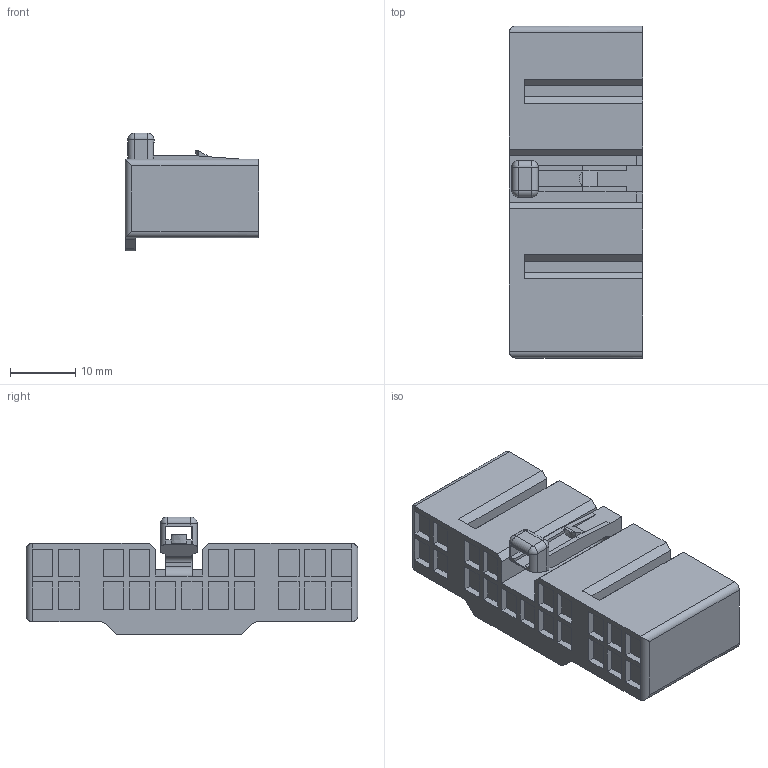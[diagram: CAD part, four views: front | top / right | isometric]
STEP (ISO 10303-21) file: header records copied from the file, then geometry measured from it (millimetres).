
FILE_DESCRIPTION(('CATIA V5 STEP Exchange','CAx-IF Rec.Pracs.--- Model Styling and Organization---1.2---2011-12-15'),'2;1');
FILE_NAME('N:\C-DAM_MyDesk\ENV\900093\6240-5201.stp','2015-01-20T05:15:33+00:00',('none'),('none'),'CATIA Version 5-6 Release 2012 SP4 HF74','CATIA V5 STEP AP214','none');
FILE_SCHEMA(('AUTOMOTIVE_DESIGN { 1 0 10303 214 1 1 1 1 }'));
Length unit declared in the file: millimetre
Products named in the file (1): 6240-5201
Bounding box: 20.4 x 50.7 x 18 mm (x, y, z)
Volume: 10970 mm3; surface area: 5362.1 mm2
Topology: 1 solids, 1 shells, 299 faces, 761 edges, 494 vertices
Faces by surface type: plane 274, cylinder 19, sphere 4, bspline 2
Entity records: 8461 total; most frequent: CARTESIAN_POINT 1650, ORIENTED_EDGE 1514, DIRECTION 1145, EDGE_CURVE 757, VECTOR 701, LINE 701, VERTEX_POINT 494, EDGE_LOOP 335
